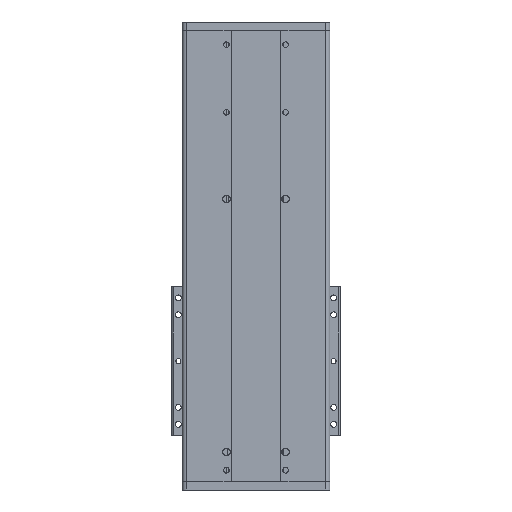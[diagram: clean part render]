
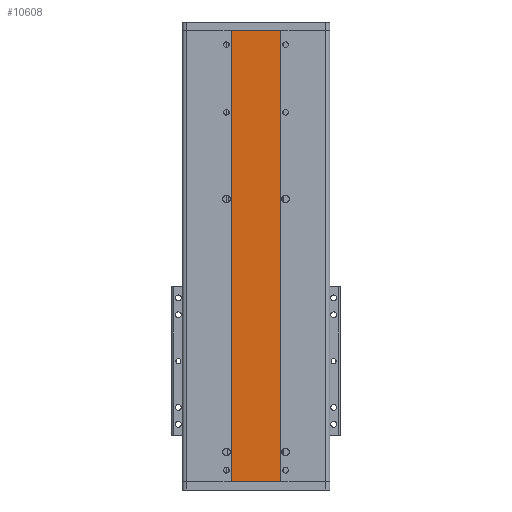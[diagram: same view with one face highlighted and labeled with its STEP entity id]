
A CAD part, front view. The second image highlights one B-rep face of the part: STEP entity #10608.
In plain terms, the highlighted planar face has unit normal (0, -1, 0).
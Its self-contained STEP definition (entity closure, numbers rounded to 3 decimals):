
#277 = VERTEX_POINT ( 'NONE', #37239 ) ;
#1160 = LINE ( 'NONE', #13704, #16080 ) ;
#1763 = ORIENTED_EDGE ( 'NONE', *, *, #36402, .T. ) ;
#4220 = DIRECTION ( 'NONE',  ( -1., 0., 0. ) ) ;
#4735 = EDGE_LOOP ( 'NONE', ( #1763, #20541, #33819, #33858 ) ) ;
#4870 = CARTESIAN_POINT ( 'NONE',  ( 1.27, -85.314, -1345. ) ) ;
#7441 = DIRECTION ( 'NONE',  ( -1., 0., 0. ) ) ;
#8071 = DIRECTION ( 'NONE',  ( 0., 0., 1. ) ) ;
#9463 = VECTOR ( 'NONE', #9781, 1000. ) ;
#9714 = VERTEX_POINT ( 'NONE', #12720 ) ;
#9781 = DIRECTION ( 'NONE',  ( 0., 0., 1. ) ) ;
#10608 = ADVANCED_FACE ( 'NONE', ( #31906 ), #20665, .F. ) ;
#12589 = EDGE_CURVE ( 'NONE', #38110, #15675, #39126, .T. ) ;
#12720 = CARTESIAN_POINT ( 'NONE',  ( 1.27, -85.314, 0. ) ) ;
#13704 = CARTESIAN_POINT ( 'NONE',  ( 0., -85.314, 0. ) ) ;
#15675 = VERTEX_POINT ( 'NONE', #36165 ) ;
#16080 = VECTOR ( 'NONE', #7441, 1000. ) ;
#16849 = CARTESIAN_POINT ( 'NONE',  ( 1.27, -85.314, 535. ) ) ;
#17280 = VECTOR ( 'NONE', #39756, 1000. ) ;
#20541 = ORIENTED_EDGE ( 'NONE', *, *, #12589, .T. ) ;
#20549 = CARTESIAN_POINT ( 'NONE',  ( 58.27, -85.314, 535. ) ) ;
#20665 = PLANE ( 'NONE',  #38219 ) ;
#24311 = EDGE_CURVE ( 'NONE', #9714, #15675, #27289, .T. ) ;
#27022 = DIRECTION ( 'NONE',  ( 0., 1., 0. ) ) ;
#27289 = LINE ( 'NONE', #28738, #9463 ) ;
#28738 = CARTESIAN_POINT ( 'NONE',  ( 1.27, -85.314, -1345. ) ) ;
#30748 = VECTOR ( 'NONE', #4220, 1000. ) ;
#31906 = FACE_OUTER_BOUND ( 'NONE', #4735, .T. ) ;
#32312 = EDGE_CURVE ( 'NONE', #277, #9714, #1160, .T. ) ;
#33819 = ORIENTED_EDGE ( 'NONE', *, *, #24311, .F. ) ;
#33858 = ORIENTED_EDGE ( 'NONE', *, *, #32312, .F. ) ;
#36165 = CARTESIAN_POINT ( 'NONE',  ( 1.27, -85.314, 535. ) ) ;
#36402 = EDGE_CURVE ( 'NONE', #277, #38110, #40521, .T. ) ;
#36761 = CARTESIAN_POINT ( 'NONE',  ( 58.27, -85.314, -1345. ) ) ;
#37239 = CARTESIAN_POINT ( 'NONE',  ( 58.27, -85.314, 0. ) ) ;
#38110 = VERTEX_POINT ( 'NONE', #20549 ) ;
#38219 = AXIS2_PLACEMENT_3D ( 'NONE', #4870, #27022, #8071 ) ;
#39126 = LINE ( 'NONE', #16849, #30748 ) ;
#39756 = DIRECTION ( 'NONE',  ( 0., 0., 1. ) ) ;
#40521 = LINE ( 'NONE', #36761, #17280 ) ;
